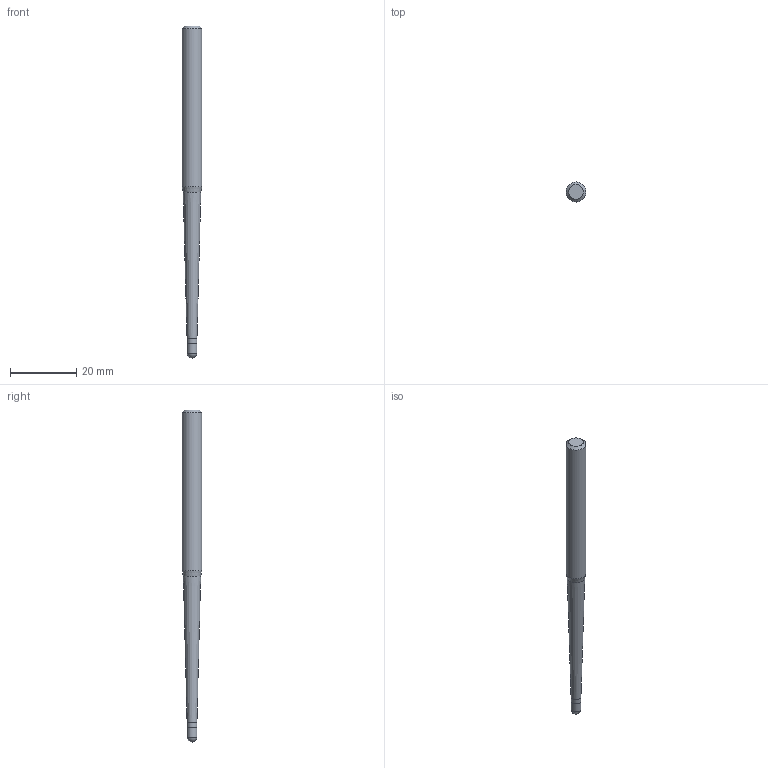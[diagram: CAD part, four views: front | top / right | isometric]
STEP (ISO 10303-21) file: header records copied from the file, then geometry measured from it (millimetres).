
FILE_DESCRIPTION((''),'2;1');
FILE_NAME('C:\Users\nsx150\AppData\Local\Temp\Mastercam 2021\E0ENTZRV18\TEMP.step','2021-09-02T09:57:27',(''),(''),'STEP Write','Mastercam 2021 ... CNC Software, Inc.','');
FILE_SCHEMA(('AUTOMOTIVE_DESIGN'));
Length unit declared in the file: millimetre
Products named in the file (1): None
Bounding box: 6 x 6 x 100 mm (x, y, z)
Volume: 2049.5 mm3; surface area: 1602.9 mm2
Topology: 2 solids, 2 shells, 10 faces, 16 edges, 9 vertices
Faces by surface type: plane 3, cylinder 3, cone 3, sphere 1
Full cylindrical faces by diameter (mm): 2.98 x1, 3 x1, 6 x1
Entity records: 232 total; most frequent: DIRECTION 40, CARTESIAN_POINT 28, AXIS2_PLACEMENT_3D 20, ORIENTED_EDGE 16, EDGE_LOOP 16, STYLED_ITEM 13, ADVANCED_FACE 10, FACE_BOUND 9
